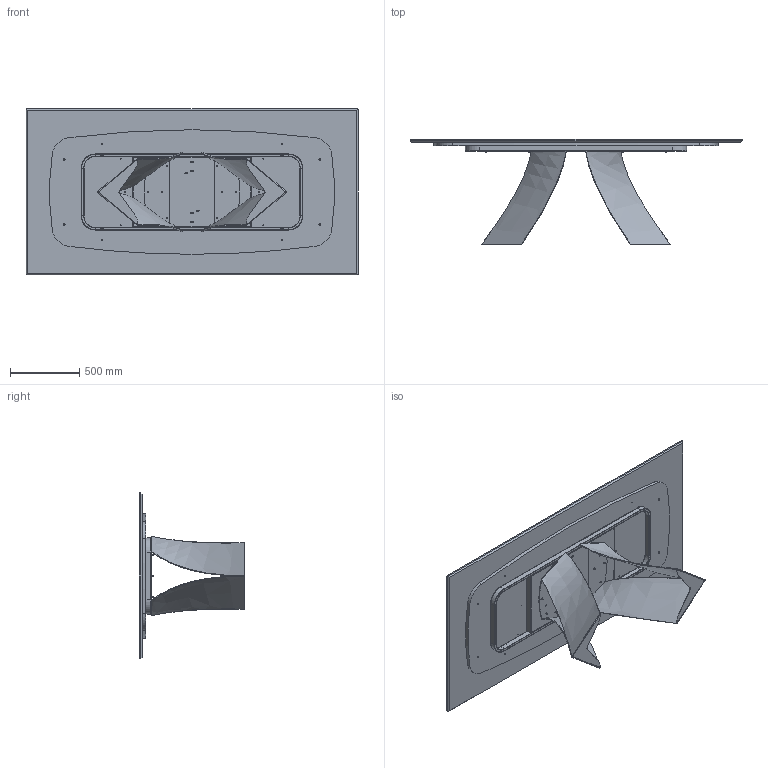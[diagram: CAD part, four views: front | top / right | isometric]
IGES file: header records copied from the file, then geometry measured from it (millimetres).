
Start section: SolidWorks IGES file using analytic representation for surfaces
Global section: file name: Y:\eforma\TECNICO\SOLIDWORKS\E-FORMA\1-TAVOLI\TWIST\02 parts\TW23M.IGS; native system: SolidWorks 2022; preprocessor: SolidWorks 2022; author: eforma.tech; date: 240807.144022; units: millimetre
Bounding box: 2400 x 760.37 x 1200 mm (x, y, z)
Volume: 110657912.9 mm3; surface area: 13850743.7 mm2
Topology: 53 solids, 53 shells, 1331 faces, 3131 edges, 1871 vertices
Faces by surface type: revolution 791, plane 474, bspline 66
